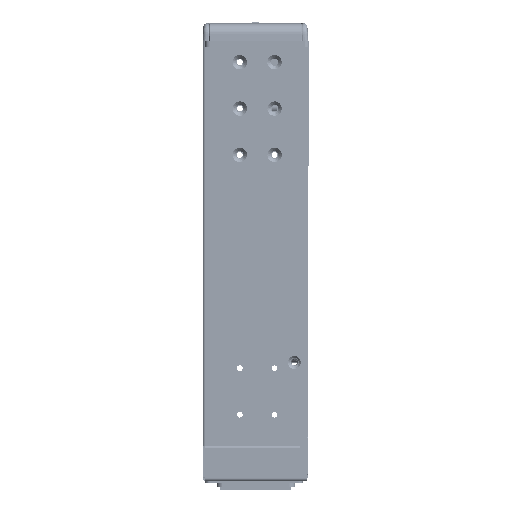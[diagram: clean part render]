
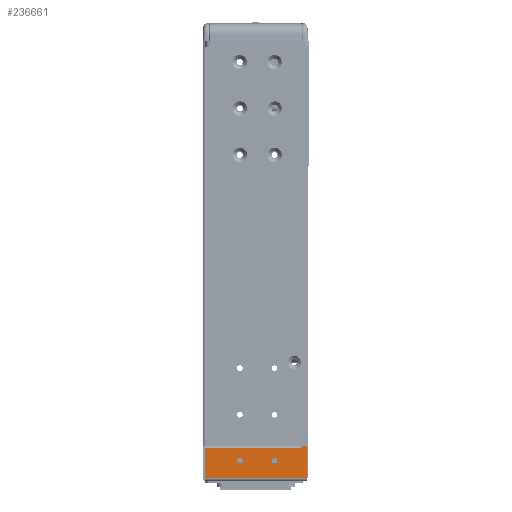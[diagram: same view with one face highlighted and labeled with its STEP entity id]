
A CAD part, left-side view. The second image highlights one B-rep face of the part: STEP entity #236661.
In plain terms, the highlighted planar face has unit normal (-1, 0, 0).
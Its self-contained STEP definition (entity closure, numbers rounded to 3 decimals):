
#230393=DIRECTION('',(0.,1.,0.));
#230394=VECTOR('',#230393,44.);
#230395=CARTESIAN_POINT('',(-220.,-8.,-186.879));
#230396=LINE('',#230395,#230394);
#230407=DIRECTION('',(0.,1.,0.));
#230408=VECTOR('',#230407,1.);
#230409=CARTESIAN_POINT('',(-220.,-6.,-173.879));
#230410=LINE('',#230409,#230408);
#230414=DIRECTION('',(0.,0.,-1.));
#230415=VECTOR('',#230414,0.8);
#230416=CARTESIAN_POINT('',(-220.,-6.,-173.079));
#230417=LINE('',#230416,#230415);
#230421=DIRECTION('',(0.,1.,0.));
#230422=VECTOR('',#230421,2.);
#230423=CARTESIAN_POINT('',(-220.,-8.,-173.079));
#230424=LINE('',#230423,#230422);
#230428=DIRECTION('',(0.,0.,1.));
#230429=VECTOR('',#230428,13.8);
#230430=CARTESIAN_POINT('',(-220.,-8.,-186.879));
#230431=LINE('',#230430,#230429);
#230435=DIRECTION('',(0.,0.,-1.));
#230436=VECTOR('',#230435,13.);
#230437=CARTESIAN_POINT('',(-220.,36.,-173.879));
#230438=LINE('',#230437,#230436);
#230442=CARTESIAN_POINT('',(-220.,6.,-179.179));
#230443=DIRECTION('',(1.,0.,0.));
#230444=DIRECTION('',(0.,0.,-1.));
#230445=AXIS2_PLACEMENT_3D('',#230442,#230443,#230444);
#230450=CARTESIAN_POINT('',(-220.,6.,-179.179));
#230451=DIRECTION('',(1.,0.,0.));
#230452=DIRECTION('',(0.,0.,1.));
#230453=AXIS2_PLACEMENT_3D('',#230450,#230451,#230452);
#230458=CARTESIAN_POINT('',(-220.,21.,-179.179));
#230459=DIRECTION('',(1.,0.,0.));
#230460=DIRECTION('',(0.,0.,-1.));
#230461=AXIS2_PLACEMENT_3D('',#230458,#230459,#230460);
#230466=CARTESIAN_POINT('',(-220.,21.,-179.179));
#230467=DIRECTION('',(1.,0.,0.));
#230468=DIRECTION('',(0.,0.,1.));
#230469=AXIS2_PLACEMENT_3D('',#230466,#230467,#230468);
#230481=DIRECTION('',(0.,-1.,0.));
#230482=VECTOR('',#230481,41.);
#230483=CARTESIAN_POINT('',(-220.,36.,-173.879));
#230484=LINE('',#230483,#230482);
#234464=CARTESIAN_POINT('',(-220.,36.,-186.879));
#234465=VERTEX_POINT('',#234464);
#234522=CARTESIAN_POINT('',(-220.,36.,-173.879));
#234523=VERTEX_POINT('',#234522);
#234526=CARTESIAN_POINT('',(-220.,-8.,-173.079));
#234527=VERTEX_POINT('',#234526);
#234528=CARTESIAN_POINT('',(-220.,-8.,-186.879));
#234529=VERTEX_POINT('',#234528);
#234614=CARTESIAN_POINT('',(-220.,-5.,-173.879));
#234615=VERTEX_POINT('',#234614);
#234616=CARTESIAN_POINT('',(-220.,-6.,-173.079));
#234617=VERTEX_POINT('',#234616);
#234690=CARTESIAN_POINT('',(-220.,-6.,-173.879));
#234691=VERTEX_POINT('',#234690);
#234694=CARTESIAN_POINT('',(-220.,6.,-177.929));
#234695=VERTEX_POINT('',#234694);
#234696=CARTESIAN_POINT('',(-220.,6.,-180.429));
#234697=VERTEX_POINT('',#234696);
#234752=CARTESIAN_POINT('',(-220.,21.,-177.929));
#234753=VERTEX_POINT('',#234752);
#234754=CARTESIAN_POINT('',(-220.,21.,-180.429));
#234755=VERTEX_POINT('',#234754);
#236634=CARTESIAN_POINT('',(-220.,-8.,-187.879));
#236635=DIRECTION('',(-1.,0.,0.));
#236636=DIRECTION('',(0.,-1.,0.));
#236637=AXIS2_PLACEMENT_3D('',#236634,#236635,#236636);
#236638=PLANE('',#236637);
#236640=ORIENTED_EDGE('',*,*,#236639,.T.);
#236641=ORIENTED_EDGE('',*,*,#236556,.F.);
#236642=ORIENTED_EDGE('',*,*,#236571,.F.);
#236643=ORIENTED_EDGE('',*,*,#236586,.F.);
#236644=ORIENTED_EDGE('',*,*,#236601,.F.);
#236645=ORIENTED_EDGE('',*,*,#236627,.T.);
#236646=ORIENTED_EDGE('',*,*,#236362,.F.);
#236647=EDGE_LOOP('',(#236640,#236641,#236642,#236643,#236644,#236645,#236646));
#236648=FACE_OUTER_BOUND('',#236647,.F.);
#236650=ORIENTED_EDGE('',*,*,#236649,.F.);
#236652=ORIENTED_EDGE('',*,*,#236651,.F.);
#236653=EDGE_LOOP('',(#236650,#236652));
#236654=FACE_BOUND('',#236653,.F.);
#236656=ORIENTED_EDGE('',*,*,#236655,.F.);
#236658=ORIENTED_EDGE('',*,*,#236657,.F.);
#236659=EDGE_LOOP('',(#236656,#236658));
#236660=FACE_BOUND('',#236659,.F.);
#230446=CIRCLE('',#230445,1.25);
#230454=CIRCLE('',#230453,1.25);
#230462=CIRCLE('',#230461,1.25);
#230470=CIRCLE('',#230469,1.25);
#236362=EDGE_CURVE('',#234523,#234465,#230438,.T.);
#236556=EDGE_CURVE('',#234691,#234615,#230410,.T.);
#236571=EDGE_CURVE('',#234617,#234691,#230417,.T.);
#236586=EDGE_CURVE('',#234527,#234617,#230424,.T.);
#236601=EDGE_CURVE('',#234529,#234527,#230431,.T.);
#236627=EDGE_CURVE('',#234529,#234465,#230396,.T.);
#236639=EDGE_CURVE('',#234523,#234615,#230484,.T.);
#236649=EDGE_CURVE('',#234697,#234695,#230446,.T.);
#236651=EDGE_CURVE('',#234695,#234697,#230454,.T.);
#236655=EDGE_CURVE('',#234755,#234753,#230462,.T.);
#236657=EDGE_CURVE('',#234753,#234755,#230470,.T.);
#236661=ADVANCED_FACE('',(#236648,#236654,#236660),#236638,.T.);
